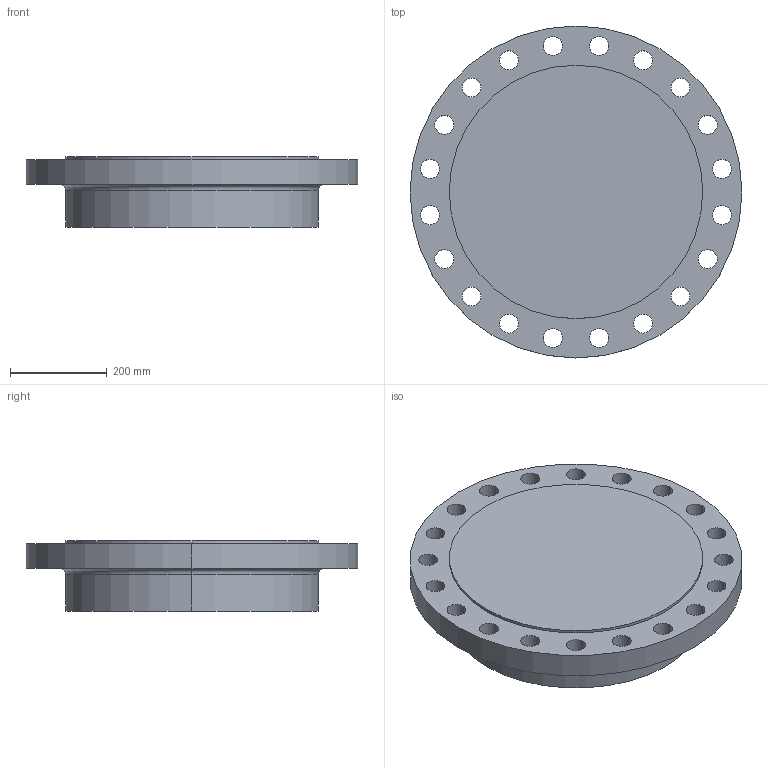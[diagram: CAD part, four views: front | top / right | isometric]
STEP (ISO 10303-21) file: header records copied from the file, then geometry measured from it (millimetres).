
FILE_DESCRIPTION (( 'STEP AP214' ), '1' );
FILE_NAME ('PN40 DN450 Type 21(i) - Type E Face.STEP', '2018-12-29T04:53:00', ( '' ), ( '' ), 'SwSTEP 2.0', 'SolidWorks 2019', '' );
FILE_SCHEMA (( 'AUTOMOTIVE_DESIGN' ));
Length unit declared in the file: millimetre
Products named in the file (1): PN40 DN450 Type 21(i) - Type E Face
Bounding box: 685 x 685 x 145 mm (x, y, z)
Volume: 37814287.7 mm3; surface area: 1071265.4 mm2
Topology: 1 solids, 1 shells, 52 faces, 142 edges, 94 vertices
Faces by surface type: cylinder 46, plane 4, torus 2
Entity records: 1820 total; most frequent: DIRECTION 344, CARTESIAN_POINT 289, ORIENTED_EDGE 284, AXIS2_PLACEMENT_3D 149, EDGE_CURVE 142, CIRCLE 96, EDGE_LOOP 94, VERTEX_POINT 94
